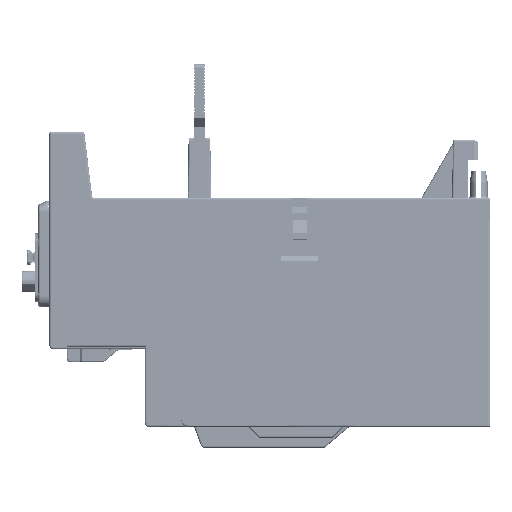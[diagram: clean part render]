
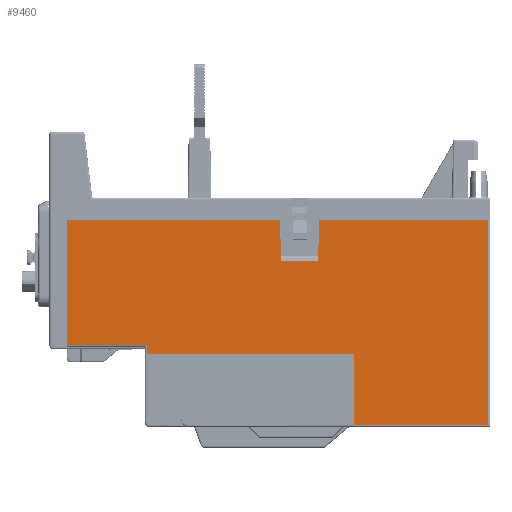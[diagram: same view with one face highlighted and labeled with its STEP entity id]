
A CAD part, left-side view. The second image highlights one B-rep face of the part: STEP entity #9460.
In plain terms, the highlighted planar face has unit normal (-1, 0, 0).
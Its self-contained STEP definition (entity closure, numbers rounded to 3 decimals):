
#9460=ADVANCED_FACE('',(#26011),#18845,.T.);
#18845=PLANE('',#179966);
#26011=FACE_OUTER_BOUND('',#35219,.T.);
#35219=EDGE_LOOP('',(#46184,#46185,#46186,#46187,#46188,#46189,#46190,#46191,
#46192,#46193,#46194,#46195));
#46184=ORIENTED_EDGE('',*,*,#114534,.T.);
#46185=ORIENTED_EDGE('',*,*,#114535,.T.);
#46186=ORIENTED_EDGE('',*,*,#114078,.F.);
#46187=ORIENTED_EDGE('',*,*,#114536,.T.);
#46188=ORIENTED_EDGE('',*,*,#114537,.F.);
#46189=ORIENTED_EDGE('',*,*,#114538,.T.);
#46190=ORIENTED_EDGE('',*,*,#114072,.F.);
#46191=ORIENTED_EDGE('',*,*,#114539,.F.);
#46192=ORIENTED_EDGE('',*,*,#114540,.F.);
#46193=ORIENTED_EDGE('',*,*,#114541,.T.);
#46194=ORIENTED_EDGE('',*,*,#114430,.T.);
#46195=ORIENTED_EDGE('',*,*,#113980,.F.);
#97006=VERTEX_POINT('',#239960);
#97007=VERTEX_POINT('',#239962);
#97089=VERTEX_POINT('',#240150);
#97090=VERTEX_POINT('',#240152);
#97095=VERTEX_POINT('',#240162);
#97096=VERTEX_POINT('',#240164);
#97354=VERTEX_POINT('',#240864);
#97429=VERTEX_POINT('',#241058);
#97430=VERTEX_POINT('',#241061);
#97431=VERTEX_POINT('',#241063);
#97432=VERTEX_POINT('',#241066);
#97433=VERTEX_POINT('',#241068);
#113980=EDGE_CURVE('',#97006,#97007,#139829,.T.);
#114072=EDGE_CURVE('',#97089,#97090,#139911,.T.);
#114078=EDGE_CURVE('',#97095,#97096,#139917,.T.);
#114430=EDGE_CURVE('',#97354,#97007,#140229,.T.);
#114534=EDGE_CURVE('',#97006,#97429,#140314,.T.);
#114535=EDGE_CURVE('',#97429,#97096,#140315,.T.);
#114536=EDGE_CURVE('',#97095,#97430,#140316,.T.);
#114537=EDGE_CURVE('',#97431,#97430,#140317,.T.);
#114538=EDGE_CURVE('',#97431,#97090,#140318,.T.);
#114539=EDGE_CURVE('',#97432,#97089,#140319,.T.);
#114540=EDGE_CURVE('',#97433,#97432,#140320,.T.);
#114541=EDGE_CURVE('',#97433,#97354,#140321,.T.);
#139829=LINE('',#239961,#159859);
#139911=LINE('',#240151,#159941);
#139917=LINE('',#240163,#159947);
#140229=LINE('',#240863,#160259);
#140314=LINE('',#241057,#160344);
#140315=LINE('',#241059,#160345);
#140316=LINE('',#241060,#160346);
#140317=LINE('',#241062,#160347);
#140318=LINE('',#241064,#160348);
#140319=LINE('',#241065,#160349);
#140320=LINE('',#241067,#160350);
#140321=LINE('',#241069,#160351);
#159859=VECTOR('',#193356,1.);
#159941=VECTOR('',#193488,1.);
#159947=VECTOR('',#193494,1.);
#160259=VECTOR('',#194066,1.);
#160344=VECTOR('',#194219,1.);
#160345=VECTOR('',#194220,1.);
#160346=VECTOR('',#194221,1.);
#160347=VECTOR('',#194222,1.);
#160348=VECTOR('',#194223,1.);
#160349=VECTOR('',#194224,1.);
#160350=VECTOR('',#194225,1.);
#160351=VECTOR('',#194226,1.);
#179966=AXIS2_PLACEMENT_3D('',#241070,#194227,#194228);
#193356=DIRECTION('',(0.,0.,1.));
#193488=DIRECTION('',(0.,-1.,0.));
#193494=DIRECTION('',(0.,-1.,0.));
#194066=DIRECTION('',(0.,-1.,0.));
#194219=DIRECTION('',(0.,-1.,0.));
#194220=DIRECTION('',(0.,0.,1.));
#194221=DIRECTION('',(0.,0.026,-1.));
#194222=DIRECTION('',(0.,-1.,0.));
#194223=DIRECTION('',(0.,0.026,1.));
#194224=DIRECTION('',(0.,0.,1.));
#194225=DIRECTION('',(0.,1.,0.));
#194226=DIRECTION('',(0.,0.,-1.));
#194227=DIRECTION('',(-1.,0.,0.));
#194228=DIRECTION('',(0.,1.,0.));
#239960=CARTESIAN_POINT('',(-35.,-20.75,-29.5));
#239961=CARTESIAN_POINT('',(-35.,-20.75,-29.5));
#239962=CARTESIAN_POINT('',(-35.,-20.75,-10.));
#240150=CARTESIAN_POINT('',(-35.,57.9,26.7));
#240151=CARTESIAN_POINT('',(-35.,57.9,26.7));
#240152=CARTESIAN_POINT('',(-35.,-0.443,26.7));
#240162=CARTESIAN_POINT('',(-35.,-11.157,26.7));
#240163=CARTESIAN_POINT('',(-35.,-11.157,26.7));
#240164=CARTESIAN_POINT('',(-35.,-57.4,26.7));
#240863=CARTESIAN_POINT('',(-35.,36.05,-10.));
#240864=CARTESIAN_POINT('',(-35.,36.05,-10.));
#241057=CARTESIAN_POINT('',(-35.,-20.75,-29.5));
#241058=CARTESIAN_POINT('',(-35.,-57.4,-29.5));
#241059=CARTESIAN_POINT('',(-35.,-57.4,-31.7));
#241060=CARTESIAN_POINT('',(-35.,-11.157,26.7));
#241061=CARTESIAN_POINT('',(-35.,-10.861,15.4));
#241062=CARTESIAN_POINT('',(-35.,-0.739,15.4));
#241063=CARTESIAN_POINT('',(-35.,-0.739,15.4));
#241064=CARTESIAN_POINT('',(-35.,-0.739,15.4));
#241065=CARTESIAN_POINT('',(-35.,57.9,-7.5));
#241066=CARTESIAN_POINT('',(-35.,57.9,-7.5));
#241067=CARTESIAN_POINT('',(-35.,36.05,-7.5));
#241068=CARTESIAN_POINT('',(-35.,36.05,-7.5));
#241069=CARTESIAN_POINT('',(-35.,36.05,-7.5));
#241070=CARTESIAN_POINT('',(-35.,26.2,-31.7));
